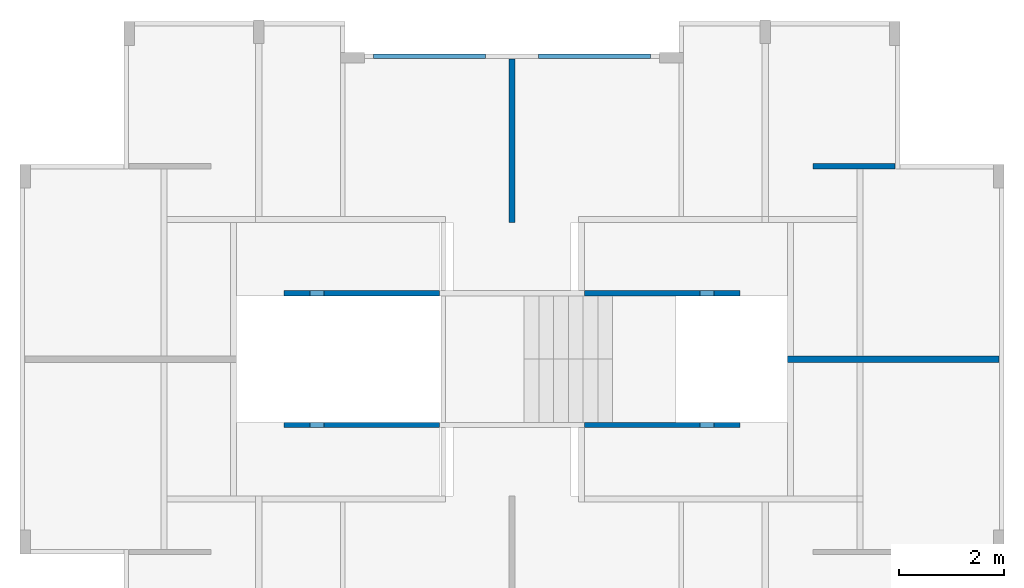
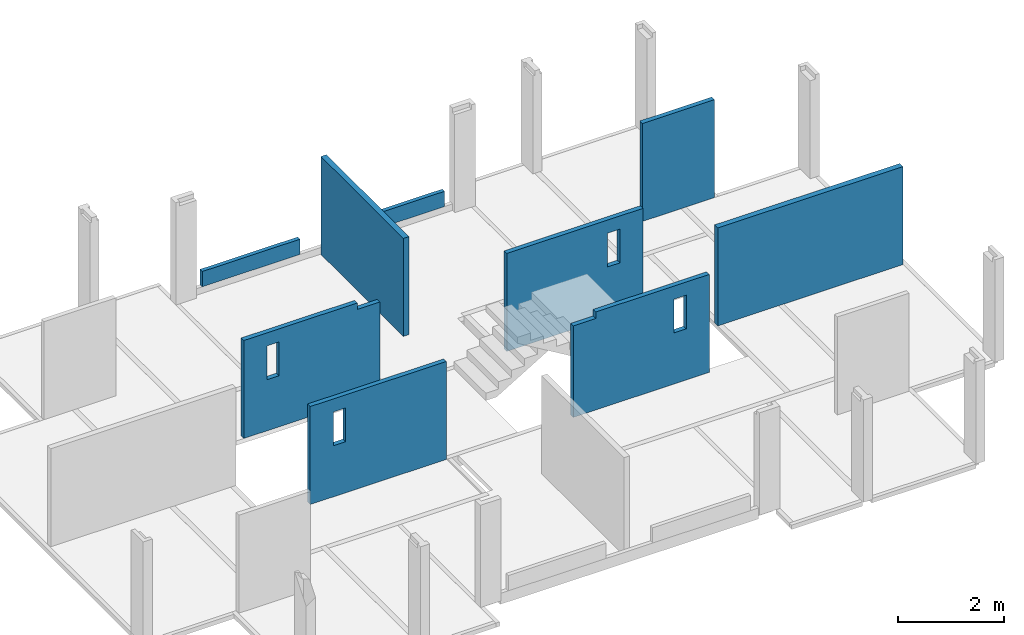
# One storey, part 4 of 6: 9 walls, 6 openings.
"""IFC4 building model written with IfcOpenShell, lengths in metres."""

from ifc_helpers import new_model, entity, si_unit, converted_unit, derived_unit, direction, frame, origin, place, context, subcontext, project, spatial, indexed_curve, outline, extrude, polygons, material, type_object, element, save


model = new_model("IFC4")

# Units and contexts
model_context = context("Model", 3, precision=1e-05, world=origin(), true_north=direction((6.123031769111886e-17, 1.0)))
body_context = subcontext(model_context, "Body", "Model", "MODEL_VIEW")
ifc_project = project(units=[si_unit("LENGTHUNIT", "METRE"), si_unit("AREAUNIT", "SQUARE_METRE"), si_unit("VOLUMEUNIT", "CUBIC_METRE"), converted_unit("PLANEANGLEUNIT", "DEGREE", entity("IfcRatioMeasure", 0.017453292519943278), si_unit("PLANEANGLEUNIT", "RADIAN"), dimensions=[0, 0, 0, 0, 0, 0, 0]), si_unit("MASSUNIT", "GRAM", prefix="KILO"), derived_unit("MASSDENSITYUNIT", [(si_unit("MASSUNIT", "GRAM", prefix="KILO"), 1), (si_unit("LENGTHUNIT", "METRE"), -3)]), derived_unit("IONCONCENTRATIONUNIT", [(si_unit("MASSUNIT", "GRAM", prefix="KILO"), 1), (si_unit("LENGTHUNIT", "METRE"), -3)]), derived_unit("MOMENTOFINERTIAUNIT", [(si_unit("LENGTHUNIT", "METRE"), 4)]), si_unit("TIMEUNIT", "SECOND"), si_unit("FREQUENCYUNIT", "HERTZ"), si_unit("THERMODYNAMICTEMPERATUREUNIT", "DEGREE_CELSIUS"), derived_unit("THERMALTRANSMITTANCEUNIT", [(si_unit("MASSUNIT", "GRAM", prefix="KILO"), 1), (si_unit("THERMODYNAMICTEMPERATUREUNIT", "KELVIN"), -1), (si_unit("TIMEUNIT", "SECOND"), -3)]), derived_unit("THERMALCONDUCTANCEUNIT", [(si_unit("MASSUNIT", "GRAM", prefix="KILO"), 1), (si_unit("THERMODYNAMICTEMPERATUREUNIT", "KELVIN"), -1), (si_unit("TIMEUNIT", "SECOND"), -3), (si_unit("LENGTHUNIT", "METRE"), 1)]), derived_unit("VOLUMETRICFLOWRATEUNIT", [(si_unit("LENGTHUNIT", "METRE"), 3), (si_unit("TIMEUNIT", "SECOND"), -1)]), derived_unit("MASSFLOWRATEUNIT", [(si_unit("MASSUNIT", "GRAM", prefix="KILO"), 1), (si_unit("TIMEUNIT", "SECOND"), -1)]), derived_unit("ROTATIONALFREQUENCYUNIT", [(si_unit("TIMEUNIT", "SECOND"), -1)]), si_unit("ELECTRICCURRENTUNIT", "AMPERE"), si_unit("ELECTRICVOLTAGEUNIT", "VOLT"), si_unit("POWERUNIT", "WATT"), si_unit("FORCEUNIT", "NEWTON", prefix="KILO"), si_unit("ILLUMINANCEUNIT", "LUX"), si_unit("LUMINOUSFLUXUNIT", "LUMEN"), si_unit("LUMINOUSINTENSITYUNIT", "CANDELA"), derived_unit("USERDEFINED", [(si_unit("MASSUNIT", "GRAM", prefix="KILO"), -1), (si_unit("LENGTHUNIT", "METRE"), -2), (si_unit("TIMEUNIT", "SECOND"), 3), (si_unit("LUMINOUSFLUXUNIT", "LUMEN"), 1)]), derived_unit("USERDEFINED", [(si_unit("MASSUNIT", "GRAM", prefix="KILO"), 1), (si_unit("TIMEUNIT", "SECOND"), -3), (si_unit("LENGTHUNIT", "METRE"), 3), (si_unit("ELECTRICCURRENTUNIT", "AMPERE"), -2)]), derived_unit("SOUNDPOWERUNIT", [(si_unit("MASSUNIT", "GRAM", prefix="KILO"), 1), (si_unit("TIMEUNIT", "SECOND"), -3), (si_unit("LENGTHUNIT", "METRE"), 2)]), derived_unit("SOUNDPRESSUREUNIT", [(si_unit("MASSUNIT", "GRAM", prefix="KILO"), 1), (si_unit("LENGTHUNIT", "METRE"), -1), (si_unit("TIMEUNIT", "SECOND"), -2)]), derived_unit("LINEARVELOCITYUNIT", [(si_unit("LENGTHUNIT", "METRE"), 1), (si_unit("TIMEUNIT", "SECOND"), -1)]), si_unit("PRESSUREUNIT", "PASCAL"), derived_unit("USERDEFINED", [(si_unit("MASSUNIT", "GRAM", prefix="KILO"), 1), (si_unit("LENGTHUNIT", "METRE"), -2), (si_unit("TIMEUNIT", "SECOND"), -2)]), derived_unit("LINEARFORCEUNIT", [(si_unit("MASSUNIT", "GRAM", prefix="KILO"), 1), (si_unit("TIMEUNIT", "SECOND"), -2)]), derived_unit("PLANARFORCEUNIT", [(si_unit("MASSUNIT", "GRAM", prefix="KILO"), 1), (si_unit("LENGTHUNIT", "METRE"), -1), (si_unit("TIMEUNIT", "SECOND"), -2)]), derived_unit("SPECIFICHEATCAPACITYUNIT", [(si_unit("THERMODYNAMICTEMPERATUREUNIT", "KELVIN"), -1), (si_unit("LENGTHUNIT", "METRE"), 2), (si_unit("TIMEUNIT", "SECOND"), -2)]), derived_unit("HEATINGVALUEUNIT", [(si_unit("LENGTHUNIT", "METRE"), 2), (si_unit("TIMEUNIT", "SECOND"), -2)]), derived_unit("VAPORPERMEABILITYUNIT", [(si_unit("LENGTHUNIT", "METRE"), -1), (si_unit("TIMEUNIT", "SECOND"), 1)]), derived_unit("DYNAMICVISCOSITYUNIT", [(si_unit("MASSUNIT", "GRAM", prefix="KILO"), 1), (si_unit("TIMEUNIT", "SECOND"), -1), (si_unit("LENGTHUNIT", "METRE"), -1)]), derived_unit("THERMALEXPANSIONCOEFFICIENTUNIT", [(si_unit("THERMODYNAMICTEMPERATUREUNIT", "KELVIN"), -1)]), derived_unit("MODULUSOFELASTICITYUNIT", [(si_unit("MASSUNIT", "GRAM", prefix="KILO"), 1), (si_unit("LENGTHUNIT", "METRE"), -1), (si_unit("TIMEUNIT", "SECOND"), -2)]), derived_unit("ISOTHERMALMOISTURECAPACITYUNIT", [(si_unit("LENGTHUNIT", "METRE"), 3), (si_unit("MASSUNIT", "GRAM", prefix="KILO"), -1)]), derived_unit("MOISTUREDIFFUSIVITYUNIT", [(si_unit("TIMEUNIT", "SECOND"), -1), (si_unit("LENGTHUNIT", "METRE"), 2)])], contexts=[model_context])

# Site, building, storey
site_placement = place(None, origin())
site = spatial("IfcSite", under=ifc_project, at=site_placement, Name="Default", CompositionType="ELEMENT")
building_placement = place(site_placement, origin())
building = spatial("IfcBuilding", under=site, at=building_placement, Name="Las nubes", CompositionType="ELEMENT")
storey_placement = place(building_placement, frame((0.0, 0.0, 7.050000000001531)))
storey = spatial("IfcBuildingStorey", under=building, at=storey_placement, Name="PISO 4", CompositionType="ELEMENT", Elevation=7.050000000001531)

# Walls
ifc_material_1 = material(Name="Concrete - Cast-in-Place Concrete - 35 MPa", Category="Materials")
wall_type_1 = type_object("IfcWallType", Name="Basic Wall:MURO 12cm", PredefinedType="STANDARD")
wall_1_placement = place(storey_placement, frame((9.322500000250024, -0.7200000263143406, 0.0), z_axis=(0.0, 0.0, 1.0), x_axis=(0.0, -1.0, 0.0)))
element("IfcWall", 1, at=wall_1_placement, inside=storey, type_object=wall_type_1, material=ifc_material_1, Name="Basic Wall:MURO 12cm", ObjectType="Basic Wall:MURO 12cm", PredefinedType="NOTDEFINED", context=body_context, shape_type="SweptSolid", body=[
    extrude(outline(indexed_curve([(3.105000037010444, 0.06000000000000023), (3.4782497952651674e-17, 0.060000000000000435), (1.0057589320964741e-16, -0.060000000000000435), (3.105000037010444, -0.06000000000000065), (3.105000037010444, 0.06000000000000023)], self_intersect=False)), origin(), (0.0, 0.0, 1.0), 2.2499999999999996),
])
wall_2_placement = place(storey_placement, frame((18.57750000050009, -6.425000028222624, 0.0), z_axis=(0.0, 0.0, 1.0), x_axis=(-1.0, 0.0, 0.0)))
element("IfcWall", 2, at=wall_2_placement, inside=storey, type_object=wall_type_1, material=ifc_material_1, Name="Basic Wall:MURO 12cm", ObjectType="Basic Wall:MURO 12cm", PredefinedType="NOTDEFINED", context=body_context, shape_type="SweptSolid", body=[
    extrude(outline(indexed_curve([(4.01999999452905, 0.06000000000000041), (-1.934650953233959e-16, 0.060000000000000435), (1.934650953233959e-16, -0.060000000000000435), (4.01999999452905, -0.06000000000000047), (4.01999999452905, 0.06000000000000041)], self_intersect=False)), origin(), (0.0, 0.0, 1.0), 2.2499999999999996),
])
wall_type_2 = type_object("IfcWallType", Name="Basic Wall:MURO 10cm", PredefinedType="STANDARD")
wall_3_placement = place(storey_placement, frame((15.042500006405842, -2.7600000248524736, 0.0)))
element("IfcWall", 3, at=wall_3_placement, inside=storey, type_object=wall_type_2, material=ifc_material_1, Name="Basic Wall:MURO 10cm", ObjectType="Basic Wall:MURO 10cm", PredefinedType="NOTDEFINED", context=body_context, shape_type="SweptSolid", body=[
    extrude(outline(indexed_curve([(1.5600000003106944, 0.05), (-1.5618275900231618e-16, 0.05), (1.5618275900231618e-16, -0.05), (1.5600000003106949, -0.05), (1.5600000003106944, 0.05)], self_intersect=False)), origin(), (0.0, 0.0, 1.0), 2.2499999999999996),
])

# Wall, opening
wall_4_placement = place(storey_placement, frame((13.657500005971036, -5.17500002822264, 0.0), z_axis=(0.0, 0.0, 1.0), x_axis=(-1.0, 0.0, 0.0)))
wall_4 = element("IfcWall", 4, at=wall_4_placement, inside=storey, type_object=wall_type_2, material=ifc_material_1, Name="Basic Wall:MURO 10cm", ObjectType="Basic Wall:MURO 10cm", PredefinedType="NOTDEFINED", context=body_context, shape_type="Tessellation", body=[
    polygons([(4.2325258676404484e-16, -0.04999999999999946, -1.0828671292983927e-15), (2.46500000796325, -0.04999999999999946, 0.0), (2.955000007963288, -0.04999999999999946, -1.0828671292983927e-15), (2.955000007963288, -0.04999999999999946, 2.1000000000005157), (2.955000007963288, -0.04999999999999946, 2.2499999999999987), (2.455000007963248, -0.04999999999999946, 2.2499999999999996), (4.2325258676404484e-16, -0.04999999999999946, 2.2499999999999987), (0.7651124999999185, -0.04999999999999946, 1.173712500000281), (0.4999999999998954, -0.04999999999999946, 1.173712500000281), (0.4999999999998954, -0.04999999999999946, 1.9500000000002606), (0.7651124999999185, -0.04999999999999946, 1.9500000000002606), (9.344534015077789e-17, 0.050000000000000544, -1.0828671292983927e-15), (9.344534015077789e-17, 0.050000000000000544, 2.2499999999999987), (2.4550000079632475, 0.050000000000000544, 2.2499999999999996), (2.9550000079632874, 0.050000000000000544, 2.2499999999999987), (2.9550000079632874, 0.050000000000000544, 2.1000000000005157), (2.9550000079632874, 0.050000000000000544, -1.0828671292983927e-15), (2.4650000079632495, 0.050000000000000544, 0.0), (0.7651124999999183, 0.050000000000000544, 1.173712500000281), (0.7651124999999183, 0.050000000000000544, 1.9500000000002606), (0.4999999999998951, 0.050000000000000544, 1.9500000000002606), (0.4999999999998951, 0.050000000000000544, 1.173712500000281)], [[[1, 2, 3, 4, 5, 6, 7], [8, 9, 10, 11]], [[12, 13, 14, 15, 16, 17, 18], [19, 20, 21, 22]], [[3, 2, 1, 12, 18, 17]], [[5, 4, 3, 17, 16, 15]], [[7, 6, 5, 15, 14, 13]], [[1, 7, 13, 12]], [[9, 8, 19, 22]], [[10, 9, 22, 21]], [[11, 10, 21, 20]], [[8, 11, 20, 19]]], closed=True),
])
opening_1_placement = place(wall_4_placement, origin())
element("IfcOpeningElement", 5, at=opening_1_placement, cuts=wall_4, Name="Basic Wall:MURO 10cm", PredefinedType="OPENING", context=body_context, shape_type="SweptSolid", body=[
    extrude(outline(indexed_curve([(-0.3881437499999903, -0.1325562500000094), (0.3881437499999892, -0.1325562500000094), (0.3881437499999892, 0.13255625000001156), (-0.3881437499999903, 0.13255625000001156), (-0.3881437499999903, -0.1325562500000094)], self_intersect=False)), frame((0.6325562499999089, 0.04999999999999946, 1.5618562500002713), z_axis=(0.0, -1.0, 0.0), x_axis=(0.0, 0.0, 1.0)), (0.0, 0.0, 1.0), 0.1),
])

wall_5_placement = place(storey_placement, frame((7.942500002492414, -7.675000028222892, 0.0), z_axis=(0.0, 0.0, 1.0), x_axis=(-1.0, 0.0, 0.0)))
wall_5 = element("IfcWall", 6, at=wall_5_placement, inside=storey, type_object=wall_type_2, material=ifc_material_1, Name="Basic Wall:MURO 10cm", ObjectType="Basic Wall:MURO 10cm", PredefinedType="NOTDEFINED", context=body_context, shape_type="Tessellation", body=[
    polygons([(3.4812988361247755e-16, -0.050000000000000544, -1.0828671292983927e-15), (0.4899999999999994, -0.050000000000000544, 0.0), (2.9550000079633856, -0.050000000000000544, -1.0828671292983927e-15), (2.9550000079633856, -0.050000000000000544, 2.2499999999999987), (0.5000000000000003, -0.050000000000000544, 2.2499999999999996), (3.4812988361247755e-16, -0.050000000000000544, 2.2499999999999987), (3.4812988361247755e-16, -0.050000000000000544, 2.1000000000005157), (2.455000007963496, -0.050000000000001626, 1.1737124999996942), (2.189887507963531, -0.050000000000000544, 1.1737124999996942), (2.189887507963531, -0.050000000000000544, 1.9499999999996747), (2.455000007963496, -0.050000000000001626, 1.9499999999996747), (4.947108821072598e-16, 0.050000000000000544, -1.0828671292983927e-15), (4.94710882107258e-16, 0.04999999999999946, 2.1000000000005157), (4.947108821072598e-16, 0.050000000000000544, 2.2499999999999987), (0.5000000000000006, 0.04999999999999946, 2.2499999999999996), (2.9550000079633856, 0.04999999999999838, 2.2499999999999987), (2.9550000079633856, 0.04999999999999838, -1.0828671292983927e-15), (0.4900000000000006, 0.04999999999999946, 0.0), (2.455000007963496, 0.04999999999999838, 1.1737124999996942), (2.455000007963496, 0.04999999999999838, 1.9499999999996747), (2.1898875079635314, 0.04999999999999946, 1.9499999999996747), (2.1898875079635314, 0.04999999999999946, 1.1737124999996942)], [[[1, 2, 3, 4, 5, 6, 7], [8, 9, 10, 11]], [[12, 13, 14, 15, 16, 17, 18], [19, 20, 21, 22]], [[3, 2, 1, 12, 18, 17]], [[4, 3, 17, 16]], [[6, 5, 4, 16, 15, 14]], [[1, 7, 6, 14, 13, 12]], [[9, 8, 19, 22]], [[10, 9, 22, 21]], [[11, 10, 21, 20]], [[8, 11, 20, 19]]], closed=True),
])
opening_2_placement = place(wall_5_placement, origin())
element("IfcOpeningElement", 7, at=opening_2_placement, cuts=wall_5, Name="Basic Wall:MURO 10cm", PredefinedType="OPENING", context=body_context, shape_type="SweptSolid", body=[
    extrude(outline(indexed_curve([(-0.3881437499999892, -0.1325562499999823), (0.3881437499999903, -0.1325562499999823), (0.3881437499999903, 0.1325562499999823), (-0.3881437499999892, 0.1325562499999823), (-0.3881437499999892, -0.1325562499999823)], self_intersect=False)), frame((2.3224437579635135, 0.050000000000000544, 1.5618562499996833), z_axis=(0.0, -1.0, 0.0), x_axis=(0.0, 0.0, 1.0)), (0.0, 0.0, 1.0), 0.1),
])

# Wall, openings
wall_6_placement = place(storey_placement, frame((7.942500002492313, -5.175000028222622, 0.0), z_axis=(0.0, 0.0, 1.0), x_axis=(-1.0, 0.0, 0.0)))
wall_6 = element("IfcWall", 8, at=wall_6_placement, inside=storey, type_object=wall_type_2, material=ifc_material_1, Name="Basic Wall:MURO 10cm", ObjectType="Basic Wall:MURO 10cm", PredefinedType="NOTDEFINED", context=body_context, shape_type="Tessellation", body=[
    polygons([(2.9550000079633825, -0.04999999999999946, 2.2499999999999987), (0.49999999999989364, -0.04999999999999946, 2.2499999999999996), (0.4900000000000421, -0.04999999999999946, 2.2499999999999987), (0.4900000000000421, -0.04999999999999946, 2.099999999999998), (8.00730484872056e-16, -0.04999999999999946, 2.099999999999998), (8.00730484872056e-16, -0.04999999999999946, -1.0828671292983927e-15), (0.4900000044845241, -0.04999999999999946, 0.0), (2.9550000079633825, -0.04999999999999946, -1.0828671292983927e-15), (2.4550000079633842, -0.04999999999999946, 1.9499999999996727), (2.4550000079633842, -0.04999999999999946, 1.1737124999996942), (2.1898875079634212, -0.04999999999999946, 1.1737124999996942), (2.1898875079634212, -0.04999999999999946, 1.9499999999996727), (2.9550000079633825, 0.050000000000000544, 2.2499999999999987), (2.9550000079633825, 0.050000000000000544, -1.0828671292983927e-15), (0.49000000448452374, 0.050000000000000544, 0.0), (4.78288660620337e-16, 0.050000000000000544, -1.0828671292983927e-15), (4.78288660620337e-16, 0.050000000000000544, 2.099999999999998), (0.4900000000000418, 0.050000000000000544, 2.099999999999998), (0.4900000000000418, 0.050000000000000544, 2.2499999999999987), (0.4999999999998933, 0.050000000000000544, 2.2499999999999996), (2.4550000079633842, 0.050000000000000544, 1.9499999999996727), (2.189887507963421, 0.050000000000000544, 1.9499999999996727), (2.189887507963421, 0.050000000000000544, 1.1737124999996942), (2.4550000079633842, 0.050000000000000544, 1.1737124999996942)], [[[1, 2, 3, 4, 5, 6, 7, 8], [9, 10, 11, 12]], [[13, 14, 15, 16, 17, 18, 19, 20], [21, 22, 23, 24]], [[3, 2, 1, 13, 20, 19]], [[5, 4, 18, 17]], [[4, 3, 19, 18]], [[1, 8, 14, 13]], [[6, 5, 17, 16]], [[8, 7, 6, 16, 15, 14]], [[10, 9, 21, 24]], [[11, 10, 24, 23]], [[12, 11, 23, 22]], [[9, 12, 22, 21]]], closed=True),
])
opening_3_placement = place(wall_6_placement, origin())
element("IfcOpeningElement", 9, at=opening_3_placement, cuts=wall_6, Name="Basic Wall:MURO 10cm", PredefinedType="OPENING", context=body_context, shape_type="SweptSolid", body=[
    extrude(outline(indexed_curve([(-0.1325562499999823, -0.3881437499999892), (0.13255624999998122, -0.3881437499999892), (0.13255624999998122, 0.3881437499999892), (-0.1325562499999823, 0.3881437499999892), (-0.1325562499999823, -0.3881437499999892)], self_intersect=False)), frame((2.322443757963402, 0.04999999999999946, 1.5618562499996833), z_axis=(0.0, -1.0, 0.0), x_axis=(-1.0, 0.0, 0.0)), (0.0, 0.0, 1.0), 0.1),
])
opening_4_placement = place(wall_6_placement, origin())
element("IfcOpeningElement", 10, at=opening_4_placement, cuts=wall_6, Name="Basic Wall:MURO 10cm", PredefinedType="OPENING", context=body_context, shape_type="SweptSolid", body=[
    extrude(outline(indexed_curve([(-0.2450000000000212, -0.07500000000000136), (0.2450000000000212, -0.07500000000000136), (0.2450000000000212, 0.07500000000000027), (-0.2450000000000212, 0.07500000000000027), (-0.2450000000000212, -0.07500000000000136)], self_intersect=False)), frame((0.2450000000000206, 0.04999999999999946, 2.1749999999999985), z_axis=(0.0, -1.0, 0.0), x_axis=(-1.0, 0.0, 0.0)), (0.0, 0.0, 1.0), 0.1),
])

wall_7_placement = place(storey_placement, frame((10.702499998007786, -7.675000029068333, 0.0)))
wall_7 = element("IfcWall", 11, at=wall_7_placement, inside=storey, type_object=wall_type_2, material=ifc_material_1, Name="Basic Wall:MURO 10cm", ObjectType="Basic Wall:MURO 10cm", PredefinedType="NOTDEFINED", context=body_context, shape_type="Tessellation", body=[
    polygons([(2.9550000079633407, -0.050000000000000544, 2.2499999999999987), (0.4900000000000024, -0.050000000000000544, 2.2499999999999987), (0.4900000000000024, -0.050000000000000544, 2.099999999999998), (1.159822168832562e-15, -0.050000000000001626, 2.099999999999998), (1.159822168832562e-15, -0.050000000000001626, -1.0828671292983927e-15), (2.9550000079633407, -0.050000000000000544, -1.0828671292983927e-15), (2.189887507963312, -0.04999999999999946, 1.173712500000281), (2.189887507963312, -0.04999999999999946, 1.9500000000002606), (2.455000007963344, -0.04999999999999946, 1.9500000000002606), (2.455000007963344, -0.04999999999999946, 1.173712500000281), (2.9550000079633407, 0.04999999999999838, 2.2499999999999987), (2.9550000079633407, 0.04999999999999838, -1.0828671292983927e-15), (9.765959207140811e-16, 0.04999999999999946, -1.0828671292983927e-15), (9.765959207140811e-16, 0.04999999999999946, 2.099999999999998), (0.49000000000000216, 0.050000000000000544, 2.099999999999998), (0.49000000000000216, 0.050000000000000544, 2.2499999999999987), (2.189887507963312, 0.04999999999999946, 1.173712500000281), (2.455000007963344, 0.04999999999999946, 1.173712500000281), (2.455000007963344, 0.04999999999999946, 1.9500000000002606), (2.189887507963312, 0.04999999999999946, 1.9500000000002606)], [[[1, 2, 3, 4, 5, 6], [7, 8, 9, 10]], [[11, 12, 13, 14, 15, 16], [17, 18, 19, 20]], [[2, 1, 11, 16]], [[4, 3, 15, 14]], [[3, 2, 16, 15]], [[1, 6, 12, 11]], [[5, 4, 14, 13]], [[6, 5, 13, 12]], [[8, 7, 17, 20]], [[9, 8, 20, 19]], [[10, 9, 19, 18]], [[7, 10, 18, 17]]], closed=True),
])
opening_5_placement = place(wall_7_placement, origin())
element("IfcOpeningElement", 12, at=opening_5_placement, cuts=wall_7, Name="Basic Wall:MURO 10cm", PredefinedType="OPENING", context=body_context, shape_type="SweptSolid", body=[
    extrude(outline(indexed_curve([(-0.13255625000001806, -0.3881437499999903), (0.1325562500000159, -0.3881437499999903), (0.1325562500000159, 0.3881437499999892), (-0.13255625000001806, 0.3881437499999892), (-0.13255625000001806, -0.3881437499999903)], self_intersect=False)), frame((2.32244375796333, 0.050000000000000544, 1.5618562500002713), z_axis=(0.0, -1.0, 0.0), x_axis=(1.0, 0.0, 0.0)), (0.0, 0.0, 1.0), 0.1),
])
opening_6_placement = place(wall_7_placement, origin())
element("IfcOpeningElement", 13, at=opening_6_placement, cuts=wall_7, Name="Basic Wall:MURO 10cm", PredefinedType="OPENING", context=body_context, shape_type="SweptSolid", body=[
    extrude(outline(indexed_curve([(-0.2450000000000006, -0.07500000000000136), (0.2450000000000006, -0.07500000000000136), (0.2450000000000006, 0.07500000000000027), (-0.2450000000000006, 0.07500000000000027), (-0.2450000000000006, -0.07500000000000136)], self_intersect=False)), frame((0.2450000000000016, 0.050000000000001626, 2.1749999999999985), z_axis=(0.0, -1.0, 0.0), x_axis=(-1.0, 0.0, 0.0)), (0.0, 0.0, 1.0), 0.1),
])

# Walls
ifc_material_2 = material(Name="Concrete - Cast-in-Place Concrete - 28 MPa SLAB", Category="Materials")
wall_type_3 = type_object("IfcWallType", Name="Basic Wall:MURO .085cm", PredefinedType="STANDARD")
wall_8_placement = place(storey_placement, frame((6.692499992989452, -0.6675000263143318, 0.14999999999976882)))
element("IfcWall", 14, at=wall_8_placement, inside=storey, type_object=wall_type_3, material=ifc_material_2, Name="Basic Wall:MURO .085cm", ObjectType="Basic Wall:MURO .085cm", PredefinedType="NOTDEFINED", context=body_context, shape_type="SweptSolid", body=[
    extrude(outline(indexed_curve([(2.1250000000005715, 0.04249999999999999), (-1.7146162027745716e-16, 0.04249999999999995), (1.7146162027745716e-16, -0.04249999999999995), (2.125000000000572, -0.042499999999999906), (2.1250000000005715, 0.04249999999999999)], self_intersect=False)), origin(), (0.0, 0.0, 1.0), 0.35000000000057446),
])
wall_9_placement = place(storey_placement, frame((9.82750000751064, -0.6675000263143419, 0.14999999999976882)))
element("IfcWall", 15, at=wall_9_placement, inside=storey, type_object=wall_type_3, material=ifc_material_2, Name="Basic Wall:MURO .085cm", ObjectType="Basic Wall:MURO .085cm", PredefinedType="NOTDEFINED", context=body_context, shape_type="SweptSolid", body=[
    extrude(outline(indexed_curve([(2.1249999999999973, 0.04249999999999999), (-1.7146162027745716e-16, 0.04249999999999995), (1.7146162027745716e-16, -0.04249999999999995), (2.1249999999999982, -0.042499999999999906), (2.1249999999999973, 0.04249999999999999)], self_intersect=False)), origin(), (0.0, 0.0, 1.0), 0.35000000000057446),
])

save(model, "model.ifc")
